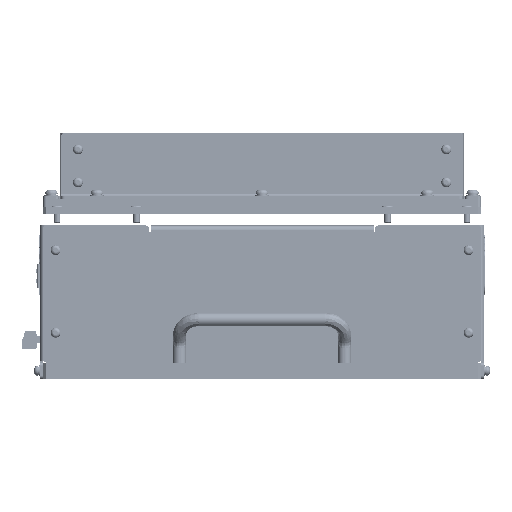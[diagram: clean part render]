
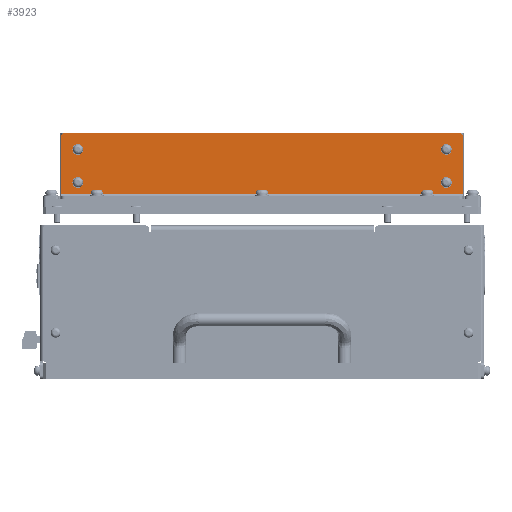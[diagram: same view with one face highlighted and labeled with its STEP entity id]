
A CAD part, left-side view. The second image highlights one B-rep face of the part: STEP entity #3923.
In plain terms, the highlighted planar face has unit normal (-1, 0, 0).
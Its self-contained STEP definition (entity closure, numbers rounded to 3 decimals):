
#1127 = EDGE_CURVE ( 'NONE', #82553, #193552, #64454, .T. ) ;
#3923 = ADVANCED_FACE ( 'NONE', ( #10412, #186014, #50268, #95464, #5104 ), #6951, .F. ) ;
#4542 = DIRECTION ( 'NONE',  ( 0., -1., 0. ) ) ;
#5104 = FACE_OUTER_BOUND ( 'NONE', #72612, .T. ) ;
#5181 = CIRCLE ( 'NONE', #51791, 1.7 ) ;
#6951 = PLANE ( 'NONE',  #77674 ) ;
#8883 = EDGE_CURVE ( 'NONE', #72408, #146434, #218585, .T. ) ;
#9393 = CARTESIAN_POINT ( 'NONE',  ( -162., 111.5, 134. ) ) ;
#10412 = FACE_BOUND ( 'NONE', #192798, .T. ) ;
#15110 = DIRECTION ( 'NONE',  ( -1., 0., 0. ) ) ;
#19155 = AXIS2_PLACEMENT_3D ( 'NONE', #81825, #200845, #98906 ) ;
#19985 = EDGE_LOOP ( 'NONE', ( #87454, #33663 ) ) ;
#23984 = VECTOR ( 'NONE', #118739, 1000. ) ;
#26193 = CARTESIAN_POINT ( 'NONE',  ( -162., -113.2, 114. ) ) ;
#26464 = DIRECTION ( 'NONE',  ( 0., -1., 0. ) ) ;
#27337 = ORIENTED_EDGE ( 'NONE', *, *, #141100, .T. ) ;
#30932 = CIRCLE ( 'NONE', #96103, 1.7 ) ;
#31474 = CARTESIAN_POINT ( 'NONE',  ( -162., 121.5, 142. ) ) ;
#33663 = ORIENTED_EDGE ( 'NONE', *, *, #1127, .F. ) ;
#45752 = CARTESIAN_POINT ( 'NONE',  ( -162., -111.5, 134. ) ) ;
#49633 = DIRECTION ( 'NONE',  ( -1., 0., 0. ) ) ;
#50268 = FACE_BOUND ( 'NONE', #79924, .T. ) ;
#50800 = DIRECTION ( 'NONE',  ( 0., 1., 0. ) ) ;
#50904 = AXIS2_PLACEMENT_3D ( 'NONE', #151550, #49633, #168593 ) ;
#51791 = AXIS2_PLACEMENT_3D ( 'NONE', #189397, #87451, #206485 ) ;
#56875 = CARTESIAN_POINT ( 'NONE',  ( -162., -119.5, 144. ) ) ;
#57134 = VECTOR ( 'NONE', #50800, 1000. ) ;
#62817 = DIRECTION ( 'NONE',  ( 0., -1., 0. ) ) ;
#62830 = EDGE_CURVE ( 'NONE', #97156, #93179, #187562, .T. ) ;
#63390 = DIRECTION ( 'NONE',  ( -1., 0., 0. ) ) ;
#63483 = ORIENTED_EDGE ( 'NONE', *, *, #105768, .F. ) ;
#63642 = DIRECTION ( 'NONE',  ( 0., -1., 0. ) ) ;
#63676 = CARTESIAN_POINT ( 'NONE',  ( -162., -111.5, 114. ) ) ;
#64454 = CIRCLE ( 'NONE', #104324, 1.7 ) ;
#65270 = CIRCLE ( 'NONE', #183199, 2. ) ;
#67141 = AXIS2_PLACEMENT_3D ( 'NONE', #45752, #164721, #62817 ) ;
#72408 = VERTEX_POINT ( 'NONE', #56875 ) ;
#72612 = EDGE_LOOP ( 'NONE', ( #204464, #177967, #27337, #145456, #168349, #78848 ) ) ;
#77674 = AXIS2_PLACEMENT_3D ( 'NONE', #219572, #219544, #219003 ) ;
#78197 = EDGE_CURVE ( 'NONE', #196449, #204971, #149473, .T. ) ;
#78848 = ORIENTED_EDGE ( 'NONE', *, *, #85932, .T. ) ;
#79429 = EDGE_CURVE ( 'NONE', #97156, #180891, #154392, .T. ) ;
#79924 = EDGE_LOOP ( 'NONE', ( #92709, #193277 ) ) ;
#81825 = CARTESIAN_POINT ( 'NONE',  ( -162., -119.5, 142. ) ) ;
#82553 = VERTEX_POINT ( 'NONE', #125736 ) ;
#83879 = CARTESIAN_POINT ( 'NONE',  ( -162., 119.5, 142. ) ) ;
#85932 = EDGE_CURVE ( 'NONE', #180891, #72408, #138639, .T. ) ;
#87451 = DIRECTION ( 'NONE',  ( -1., 0., 0. ) ) ;
#87454 = ORIENTED_EDGE ( 'NONE', *, *, #183777, .F. ) ;
#89285 = CARTESIAN_POINT ( 'NONE',  ( -162., 119.5, 144. ) ) ;
#91354 = ORIENTED_EDGE ( 'NONE', *, *, #78197, .F. ) ;
#92192 = ORIENTED_EDGE ( 'NONE', *, *, #186713, .F. ) ;
#92709 = ORIENTED_EDGE ( 'NONE', *, *, #183427, .F. ) ;
#93179 = VERTEX_POINT ( 'NONE', #135175 ) ;
#95464 = FACE_BOUND ( 'NONE', #19985, .T. ) ;
#96103 = AXIS2_PLACEMENT_3D ( 'NONE', #116892, #15110, #134027 ) ;
#97156 = VERTEX_POINT ( 'NONE', #105635 ) ;
#98906 = DIRECTION ( 'NONE',  ( 0., 1., 0. ) ) ;
#99968 = CARTESIAN_POINT ( 'NONE',  ( -162., 111.5, 114. ) ) ;
#100643 = CARTESIAN_POINT ( 'NONE',  ( -162., 113.2, 134. ) ) ;
#100963 = DIRECTION ( 'NONE',  ( 0., 1., 0. ) ) ;
#104324 = AXIS2_PLACEMENT_3D ( 'NONE', #63676, #63390, #63642 ) ;
#105635 = CARTESIAN_POINT ( 'NONE',  ( -162., -121.5, 107. ) ) ;
#105768 = EDGE_CURVE ( 'NONE', #185100, #186952, #5181, .T. ) ;
#106209 = DIRECTION ( 'NONE',  ( -1., 0., 0. ) ) ;
#112977 = CARTESIAN_POINT ( 'NONE',  ( -162., 113.2, 114. ) ) ;
#116892 = CARTESIAN_POINT ( 'NONE',  ( -162., 111.5, 114. ) ) ;
#117056 = DIRECTION ( 'NONE',  ( 0., -1., 0. ) ) ;
#117581 = EDGE_CURVE ( 'NONE', #204971, #196449, #30932, .T. ) ;
#117911 = EDGE_CURVE ( 'NONE', #146434, #140473, #65270, .T. ) ;
#118159 = CARTESIAN_POINT ( 'NONE',  ( -162., -109.8, 134. ) ) ;
#118739 = DIRECTION ( 'NONE',  ( 0., 0., 1. ) ) ;
#125736 = CARTESIAN_POINT ( 'NONE',  ( -162., -109.8, 114. ) ) ;
#127538 = CARTESIAN_POINT ( 'NONE',  ( -162., -121.5, 142. ) ) ;
#128285 = DIRECTION ( 'NONE',  ( -1., 0., 0. ) ) ;
#129226 = DIRECTION ( 'NONE',  ( 0., 0., -1. ) ) ;
#133485 = VECTOR ( 'NONE', #183839, 1000. ) ;
#134027 = DIRECTION ( 'NONE',  ( 0., -1., 0. ) ) ;
#135175 = CARTESIAN_POINT ( 'NONE',  ( -162., 121.5, 107. ) ) ;
#136021 = CARTESIAN_POINT ( 'NONE',  ( -162., -113.2, 134. ) ) ;
#136398 = VERTEX_POINT ( 'NONE', #136021 ) ;
#137655 = AXIS2_PLACEMENT_3D ( 'NONE', #99968, #218907, #117056 ) ;
#138639 = CIRCLE ( 'NONE', #19155, 2. ) ;
#140473 = VERTEX_POINT ( 'NONE', #31474 ) ;
#141100 = EDGE_CURVE ( 'NONE', #140473, #93179, #217843, .T. ) ;
#145456 = ORIENTED_EDGE ( 'NONE', *, *, #62830, .F. ) ;
#146434 = VERTEX_POINT ( 'NONE', #89285 ) ;
#146502 = CIRCLE ( 'NONE', #173428, 1.7 ) ;
#149473 = CIRCLE ( 'NONE', #137655, 1.7 ) ;
#151550 = CARTESIAN_POINT ( 'NONE',  ( -162., -111.5, 114. ) ) ;
#154392 = LINE ( 'NONE', #186495, #23984 ) ;
#156887 = CIRCLE ( 'NONE', #50904, 1.7 ) ;
#161023 = AXIS2_PLACEMENT_3D ( 'NONE', #9393, #128285, #26464 ) ;
#164721 = DIRECTION ( 'NONE',  ( -1., 0., 0. ) ) ;
#164967 = CIRCLE ( 'NONE', #161023, 1.7 ) ;
#168349 = ORIENTED_EDGE ( 'NONE', *, *, #79429, .T. ) ;
#168593 = DIRECTION ( 'NONE',  ( 0., -1., 0. ) ) ;
#169793 = CARTESIAN_POINT ( 'NONE',  ( -162., -121.5, 107. ) ) ;
#172709 = VECTOR ( 'NONE', #129226, 1000. ) ;
#173428 = AXIS2_PLACEMENT_3D ( 'NONE', #208196, #106209, #4542 ) ;
#177317 = VERTEX_POINT ( 'NONE', #118159 ) ;
#177967 = ORIENTED_EDGE ( 'NONE', *, *, #117911, .T. ) ;
#178242 = EDGE_CURVE ( 'NONE', #177317, #136398, #195870, .T. ) ;
#180891 = VERTEX_POINT ( 'NONE', #127538 ) ;
#183199 = AXIS2_PLACEMENT_3D ( 'NONE', #83879, #202925, #100963 ) ;
#183427 = EDGE_CURVE ( 'NONE', #136398, #177317, #146502, .T. ) ;
#183777 = EDGE_CURVE ( 'NONE', #193552, #82553, #156887, .T. ) ;
#183806 = ORIENTED_EDGE ( 'NONE', *, *, #117581, .F. ) ;
#183839 = DIRECTION ( 'NONE',  ( 0., 1., 0. ) ) ;
#184044 = CARTESIAN_POINT ( 'NONE',  ( -162., 121.5, 144. ) ) ;
#185100 = VERTEX_POINT ( 'NONE', #188254 ) ;
#186014 = FACE_BOUND ( 'NONE', #214364, .T. ) ;
#186495 = CARTESIAN_POINT ( 'NONE',  ( -162., -121.5, 104. ) ) ;
#186713 = EDGE_CURVE ( 'NONE', #186952, #185100, #164967, .T. ) ;
#186952 = VERTEX_POINT ( 'NONE', #100643 ) ;
#187562 = LINE ( 'NONE', #169793, #57134 ) ;
#188254 = CARTESIAN_POINT ( 'NONE',  ( -162., 109.8, 134. ) ) ;
#189397 = CARTESIAN_POINT ( 'NONE',  ( -162., 111.5, 134. ) ) ;
#192798 = EDGE_LOOP ( 'NONE', ( #63483, #92192 ) ) ;
#193277 = ORIENTED_EDGE ( 'NONE', *, *, #178242, .F. ) ;
#193552 = VERTEX_POINT ( 'NONE', #26193 ) ;
#195870 = CIRCLE ( 'NONE', #67141, 1.7 ) ;
#196449 = VERTEX_POINT ( 'NONE', #112977 ) ;
#200845 = DIRECTION ( 'NONE',  ( -1., 0., 0. ) ) ;
#202925 = DIRECTION ( 'NONE',  ( -1., 0., 0. ) ) ;
#203778 = CARTESIAN_POINT ( 'NONE',  ( -162., 109.8, 114. ) ) ;
#204464 = ORIENTED_EDGE ( 'NONE', *, *, #8883, .T. ) ;
#204971 = VERTEX_POINT ( 'NONE', #203778 ) ;
#206485 = DIRECTION ( 'NONE',  ( 0., -1., 0. ) ) ;
#208196 = CARTESIAN_POINT ( 'NONE',  ( -162., -111.5, 134. ) ) ;
#214018 = CARTESIAN_POINT ( 'NONE',  ( -162., 121.5, 104. ) ) ;
#214364 = EDGE_LOOP ( 'NONE', ( #183806, #91354 ) ) ;
#217843 = LINE ( 'NONE', #214018, #172709 ) ;
#218585 = LINE ( 'NONE', #184044, #133485 ) ;
#218907 = DIRECTION ( 'NONE',  ( -1., 0., 0. ) ) ;
#219003 = DIRECTION ( 'NONE',  ( 0., 1., 0. ) ) ;
#219544 = DIRECTION ( 'NONE',  ( 1., 0., 0. ) ) ;
#219572 = CARTESIAN_POINT ( 'NONE',  ( -162., 0., 124. ) ) ;
